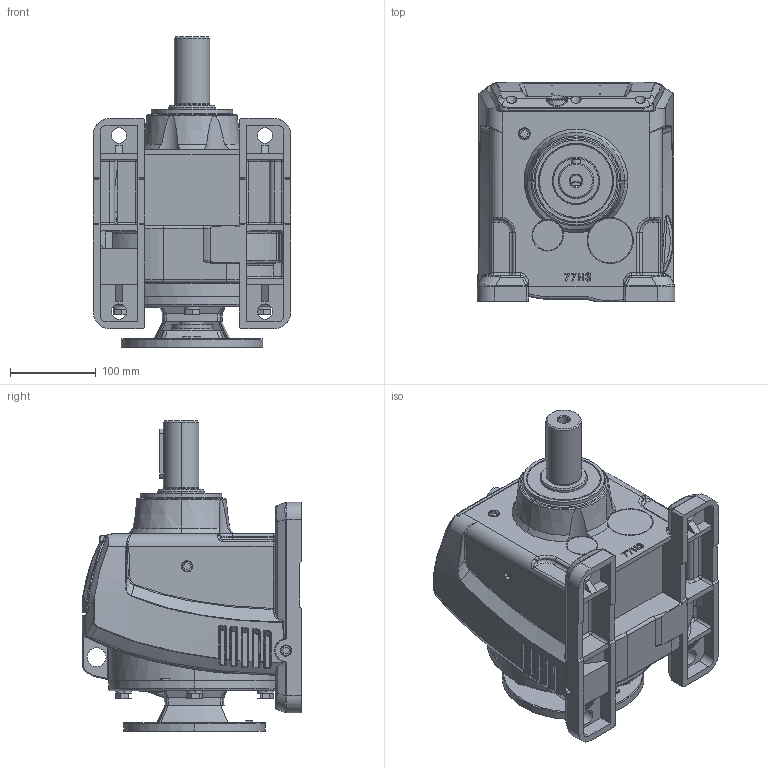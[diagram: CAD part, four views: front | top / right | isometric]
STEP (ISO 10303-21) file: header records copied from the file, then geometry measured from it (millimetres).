
FILE_DESCRIPTION (( 'STEP AP203' ), '1' );
FILE_NAME ('WINL77-56C.STEP', '2013-09-26T09:23:35', ( 'User' ), ( 'Chenta' ), 'SwSTEP 2.0', 'SolidWorks 2011', '' );
FILE_SCHEMA (( 'CONFIG_CONTROL_DESIGN' ));
Products named in the file (1): WINL77-56C
Bounding box: 230 x 255.34 x 361.5 mm (x, y, z)
Surface area: 499541.9 mm2 (no closed solid volume)
Topology: 0 solids, 33 shells, 1222 faces, 3585 edges, 2335 vertices
Faces by surface type: plane 371, bspline 359, cylinder 322, cone 78, torus 59, sphere 33
Entity records: 57097 total; most frequent: CARTESIAN_POINT 27699, ORIENTED_EDGE 6346, DIRECTION 5362, EDGE_CURVE 3569, VERTEX_POINT 2335, AXIS2_PLACEMENT_3D 1991, VECTOR 1380, LINE 1380
